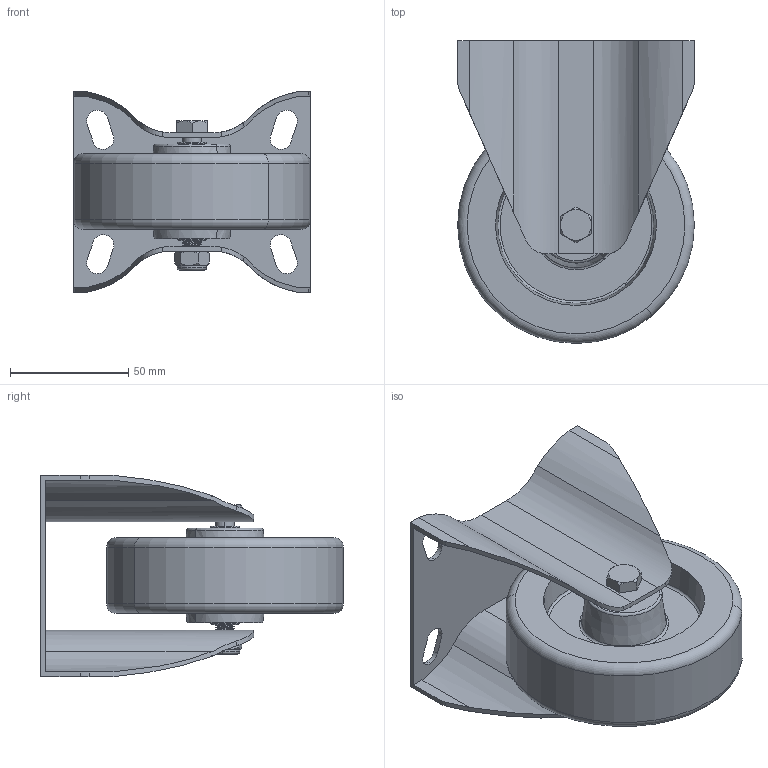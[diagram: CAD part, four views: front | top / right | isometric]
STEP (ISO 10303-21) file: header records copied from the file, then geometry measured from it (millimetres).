
FILE_DESCRIPTION (( 'STEP AP214' ), '1' );
FILE_NAME ('MDU100-F.step', '2024-01-21T22:15:55', ( '' ), ( '' ), 'SwSTEP 2.0', 'SolidWorks 2022', '' );
FILE_SCHEMA (( 'AUTOMOTIVE_DESIGN' ));
Length unit declared in the file: millimetre
Products named in the file (6): M8x55; MS100-SF; MCU100; M8Nyloc; SP12-8-41; MDU100-F
Assembly tree (5 placements, depth 2):
  MDU100-F
    MS100-SF
    M8x55
    M8Nyloc
    MCU100
    SP12-8-41
Bounding box: 100 x 127.87 x 85 mm (x, y, z)
Volume: 233967 mm3; surface area: 82039 mm2
Topology: 5 solids, 5 shells, 332 faces, 885 edges, 581 vertices
Faces by surface type: cylinder 120, plane 107, bspline 55, cone 28, torus 20, sphere 2
Entity records: 18127 total; most frequent: CARTESIAN_POINT 9954, ORIENTED_EDGE 1770, DIRECTION 1354, EDGE_CURVE 885, VERTEX_POINT 581, AXIS2_PLACEMENT_3D 466, LINE 422, VECTOR 422
